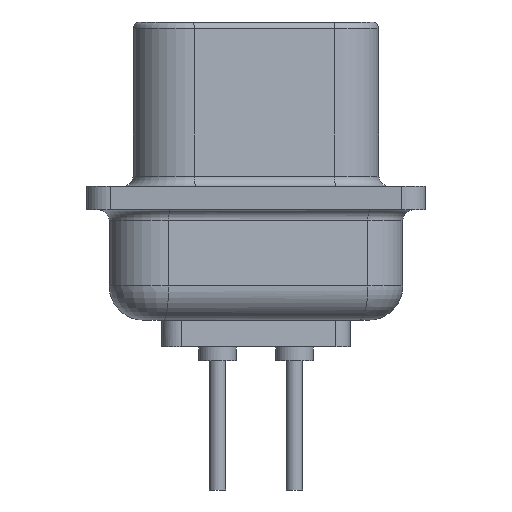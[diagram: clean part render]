
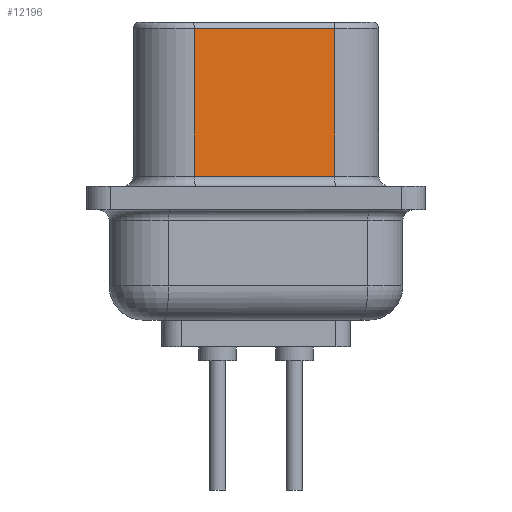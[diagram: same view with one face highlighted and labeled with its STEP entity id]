
A CAD part, left-side view. The second image highlights one B-rep face of the part: STEP entity #12196.
In plain terms, the highlighted planar face has unit normal (-0.987, -0.159, 0).
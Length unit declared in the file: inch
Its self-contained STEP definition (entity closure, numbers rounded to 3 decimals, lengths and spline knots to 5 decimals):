
#168 = DIRECTION ( 'NONE',  ( -0.159, 0.987, 0. ) ) ;
#230 = AXIS2_PLACEMENT_3D ( 'NONE', #1222, #9056, #5769 ) ;
#673 = LINE ( 'NONE', #8852, #6829 ) ;
#868 = EDGE_CURVE ( 'NONE', #4508, #13655, #673, .T. ) ;
#1222 = CARTESIAN_POINT ( 'NONE',  ( -1.80163, 0.48764, 0.31735 ) ) ;
#1736 = CARTESIAN_POINT ( 'NONE',  ( -1.83463, 0.69264, 0.30735 ) ) ;
#1985 = DIRECTION ( 'NONE',  ( 0., 0., -1. ) ) ;
#2135 = VECTOR ( 'NONE', #1985, 39.37008 ) ;
#2200 = ORIENTED_EDGE ( 'NONE', *, *, #13495, .T. ) ;
#2719 = VERTEX_POINT ( 'NONE', #2800 ) ;
#2800 = CARTESIAN_POINT ( 'NONE',  ( -1.80163, 0.48764, 0.30735 ) ) ;
#3246 = CARTESIAN_POINT ( 'NONE',  ( -1.80163, 0.48764, 0.09235 ) ) ;
#3251 = VECTOR ( 'NONE', #7788, 39.37008 ) ;
#3823 = CARTESIAN_POINT ( 'NONE',  ( -1.83463, 0.69264, 0.09235 ) ) ;
#4508 = VERTEX_POINT ( 'NONE', #1736 ) ;
#4697 = CARTESIAN_POINT ( 'NONE',  ( -1.80163, 0.48764, 0.09235 ) ) ;
#4909 = VERTEX_POINT ( 'NONE', #4697 ) ;
#5646 = DIRECTION ( 'NONE',  ( 0., 0., -1. ) ) ;
#5769 = DIRECTION ( 'NONE',  ( -0.159, 0.987, 0. ) ) ;
#6345 = VECTOR ( 'NONE', #168, 39.37008 ) ;
#6590 = CARTESIAN_POINT ( 'NONE',  ( -1.80163, 0.48764, 0.31735 ) ) ;
#6829 = VECTOR ( 'NONE', #5646, 39.37008 ) ;
#7696 = ORIENTED_EDGE ( 'NONE', *, *, #13116, .T. ) ;
#7788 = DIRECTION ( 'NONE',  ( 0.159, -0.987, 0. ) ) ;
#8004 = FACE_OUTER_BOUND ( 'NONE', #11352, .T. ) ;
#8745 = ORIENTED_EDGE ( 'NONE', *, *, #868, .T. ) ;
#8852 = CARTESIAN_POINT ( 'NONE',  ( -1.83463, 0.69264, 0.31735 ) ) ;
#9056 = DIRECTION ( 'NONE',  ( 0.987, 0.159, 0. ) ) ;
#10226 = CARTESIAN_POINT ( 'NONE',  ( -1.80163, 0.48764, 0.30735 ) ) ;
#11209 = ORIENTED_EDGE ( 'NONE', *, *, #11996, .F. ) ;
#11352 = EDGE_LOOP ( 'NONE', ( #8745, #7696, #11209, #2200 ) ) ;
#11365 = PLANE ( 'NONE',  #230 ) ;
#11996 = EDGE_CURVE ( 'NONE', #2719, #4909, #13525, .T. ) ;
#12196 = ADVANCED_FACE ( 'NONE', ( #8004 ), #11365, .F. ) ;
#13116 = EDGE_CURVE ( 'NONE', #13655, #4909, #13456, .T. ) ;
#13456 = LINE ( 'NONE', #3246, #3251 ) ;
#13495 = EDGE_CURVE ( 'NONE', #2719, #4508, #13876, .T. ) ;
#13525 = LINE ( 'NONE', #6590, #2135 ) ;
#13655 = VERTEX_POINT ( 'NONE', #3823 ) ;
#13876 = LINE ( 'NONE', #10226, #6345 ) ;
